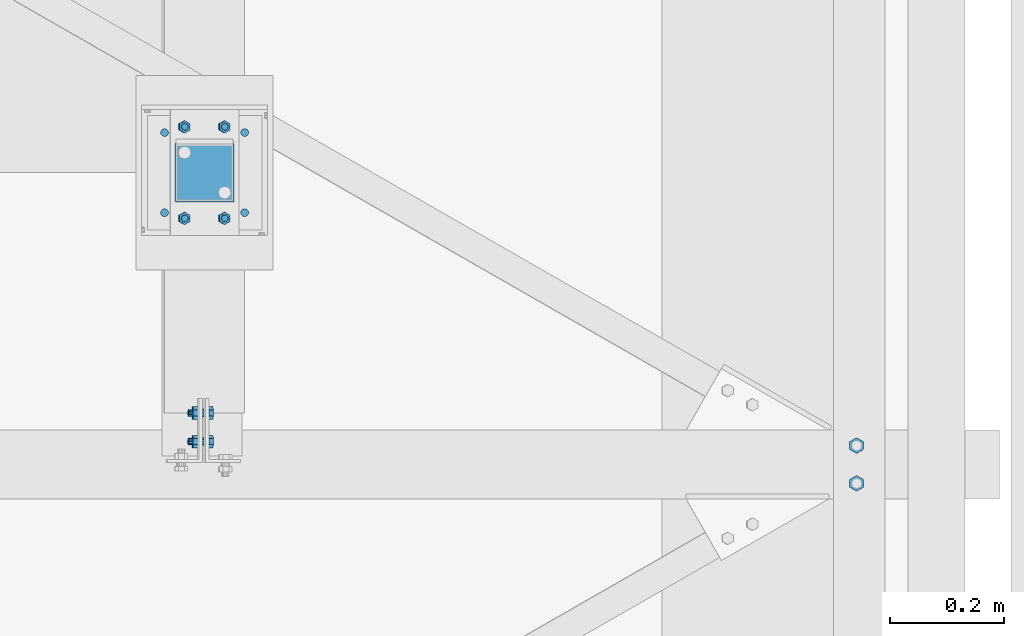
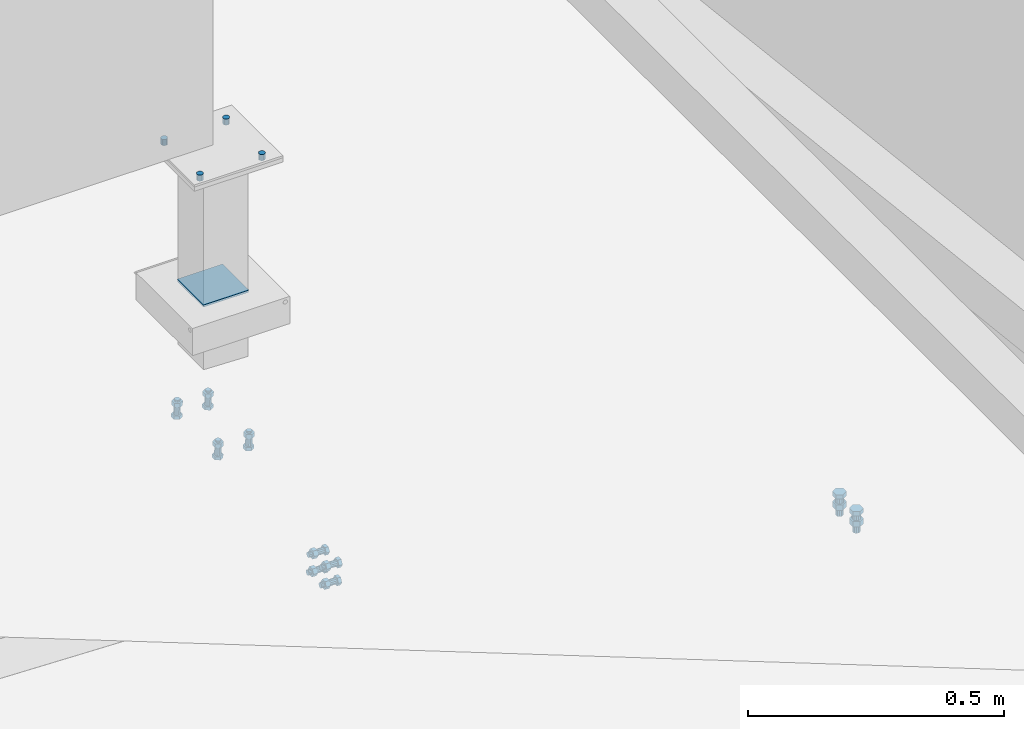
# One storey, part 393 of 3134: 5 mechanical fasteners, 4 elements without a shape of their own.
"""IFC2X3 building model written with IfcOpenShell, lengths in millimetres."""

from ifc_helpers import new_model, si_unit, frame, origin_with_axes, place, context, subcontext, project, spatial, faceted_brep, source, transform, mapped, material, type_object, element, aggregate, save


model = new_model("IFC2X3")

# Units and contexts
model_context = context("Model", 3, precision=1e-05, world=origin_with_axes())
body_context = subcontext(model_context, "Body", "Model", "MODEL_VIEW")
ifc_project = project(units=[si_unit("LENGTHUNIT", "METRE", prefix="MILLI"), si_unit("AREAUNIT", "SQUARE_METRE"), si_unit("VOLUMEUNIT", "CUBIC_METRE"), si_unit("MASSUNIT", "GRAM", prefix="KILO"), si_unit("TIMEUNIT", "SECOND"), si_unit("PLANEANGLEUNIT", "RADIAN"), si_unit("SOLIDANGLEUNIT", "STERADIAN"), si_unit("THERMODYNAMICTEMPERATUREUNIT", "DEGREE_CELSIUS"), si_unit("LUMINOUSINTENSITYUNIT", "LUMEN")], contexts=[model_context])

# Site, building, storey
site_placement = place(None, origin_with_axes())
site = spatial("IfcSite", under=ifc_project, at=site_placement, CompositionType="ELEMENT")
building_placement = place(site_placement, origin_with_axes())
building = spatial("IfcBuilding", under=site, at=building_placement, Name="Undefined", CompositionType="ELEMENT")
storey_placement = place(building_placement, origin_with_axes())
storey = spatial("IfcBuildingStorey", under=building, at=storey_placement, Name="Undefined", CompositionType="ELEMENT", Elevation=0.0)

# Assembly, mechanical fastener
assembly_1_placement = place(storey_placement, origin_with_axes())
assembly_1 = element("IfcElementAssembly", 1, at=assembly_1_placement, inside=storey, AssemblyPlace="NOTDEFINED", PredefinedType="RIGID_FRAME")
ifc_material_1 = material(Name="6.8")
mechanical_fastener_type = type_object("IfcMechanicalFastenerType", Name="Bolt assembly")
shared_shape_1 = source(origin_with_axes(), body_context, "Body", "Brep", [
    faceted_brep([(51.5, 1.36424205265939e-12, 50.0), (51.3858192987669, 1.36424205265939e-12, 50.5740251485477), (51.0606601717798, 1.36424205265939e-12, 51.0606601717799), (50.5740251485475, 1.36424205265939e-12, 51.385819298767), (-50.0000000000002, 1.36424205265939e-12, 51.5), (-50.7500000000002, 1.36424205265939e-12, 51.2990381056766), (-51.2990381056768, 1.36424205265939e-12, 50.7499999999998), (-51.5, 1.36424205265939e-12, 49.9999999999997), (-51.5, 1.36424205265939e-12, -50.0000000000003), (-51.2990381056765, 1.36424205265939e-12, -50.7500000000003), (-50.7499999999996, 1.36424205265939e-12, -51.2990381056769), (-49.9999999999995, 1.36424205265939e-12, -51.5), (50.0000000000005, 1.36424205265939e-12, -51.5), (50.7500000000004, 1.36424205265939e-12, -51.2990381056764), (51.2990381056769, 1.36424205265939e-12, -50.7499999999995), (51.5, 1.36424205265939e-12, -49.9999999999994), (51.5, 5.10000000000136, -49.9999999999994), (51.2990381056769, 5.10000000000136, -50.7499999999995), (50.7500000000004, 5.10000000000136, -51.2990381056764), (50.0000000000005, 5.10000000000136, -51.5), (-49.9999999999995, 5.10000000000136, -51.5), (-50.7499999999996, 5.10000000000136, -51.2990381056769), (-51.2990381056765, 5.10000000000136, -50.7500000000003), (-51.5, 5.10000000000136, -50.0000000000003), (-51.5, 5.10000000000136, 49.9999999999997), (-51.2990381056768, 5.10000000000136, 50.7499999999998), (-50.7500000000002, 5.10000000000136, 51.2990381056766), (-50.0000000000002, 5.10000000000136, 51.5), (50.5740251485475, 5.10000000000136, 51.385819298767), (51.0606601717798, 5.10000000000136, 51.0606601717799), (51.3858192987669, 5.10000000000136, 50.5740251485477), (51.5, 5.10000000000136, 50.0)], [[[0, 1, 2, 3, 4, 5, 6, 7, 8, 9, 10, 11, 12, 13, 14, 15]], [[16, 17, 18, 19, 20, 21, 22, 23, 24, 25, 26, 27, 28, 29, 30, 31]], [[0, 31, 30, 1]], [[1, 30, 29, 2]], [[2, 29, 28, 3]], [[3, 28, 27, 4]], [[4, 27, 26, 5]], [[5, 26, 25, 6]], [[6, 25, 24, 7]], [[7, 24, 23, 8]], [[8, 23, 22, 9]], [[9, 22, 21, 10]], [[10, 21, 20, 11]], [[11, 20, 19, 12]], [[12, 19, 18, 13]], [[13, 18, 17, 14]], [[14, 17, 16, 15]], [[15, 16, 31, 0]]]),
])
mechanical_fastener_1_placement = place(assembly_1_placement, frame((77945.0, 18227.0, 4146.62), z_axis=(0.0, -1.0, 0.0), x_axis=(-1.0, 0.0, 0.0)))
mechanical_fastener_1 = element("IfcMechanicalFastener", 2, at=mechanical_fastener_1_placement, type_object=mechanical_fastener_type, material=ifc_material_1, Name="Bolt assembly", NominalDiameter=10.0, NominalLength=5.0, context=body_context, shape_type="MappedRepresentation", body=[
    mapped(shared_shape_1, transform((0.0, 0.0, 0.0))),
])

assembly_2_placement = place(storey_placement, origin_with_axes())
assembly_2 = element("IfcElementAssembly", 3, at=assembly_2_placement, inside=storey, Name="UPN260", AssemblyPlace="NOTDEFINED", PredefinedType="RIGID_FRAME")
ifc_material_2 = material(Name="8.8")
shared_shape_2 = source(origin_with_axes(), body_context, "Body", "Brep", [
    faceted_brep([(13.856406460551, -10.0, 0.0), (6.92820323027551, -10.0, 12.0), (-6.92820323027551, -10.0, 12.0), (-13.856406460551, -10.0, 1.69692038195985e-15), (-6.92820323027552, -10.0, -12.0), (6.9282032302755, -10.0, -12.0), (6.9282032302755, 0.0, -12.0), (-6.92820323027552, 0.0, -12.0), (-13.856406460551, 0.0, 1.69692038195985e-15), (-6.92820323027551, 0.0, 12.0), (6.92820323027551, 0.0, 12.0), (13.856406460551, 0.0, 0.0), (8.0, 0.0, 0.0), (6.92820323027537, 0.0, 4.00000000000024), (3.99999999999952, 0.0, 6.92820323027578), (-8.29068785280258e-13, 0.0, 8.0), (-4.00000000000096, 0.0, 6.92820323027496), (-6.9282032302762, 0.0, 3.99999999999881), (-8.0, 0.0, -1.65813757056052e-12), (-6.92820323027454, 0.0, -4.00000000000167), (-3.99999999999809, 0.0, -6.92820323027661), (2.47832457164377e-12, 0.0, -8.0), (4.00000000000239, 0.0, -6.92820323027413), (6.92820323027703, 0.0, -3.99999999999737), (6.92820323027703, 45.0, -3.99999999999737), (4.00000000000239, 45.0, -6.92820323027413), (2.47832457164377e-12, 45.0, -8.0), (-3.99999999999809, 45.0, -6.92820323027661), (-6.92820323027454, 45.0, -4.00000000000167), (-8.0, 45.0, -1.65813757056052e-12), (-6.9282032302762, 45.0, 3.99999999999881), (-4.00000000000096, 45.0, 6.92820323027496), (-8.29068785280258e-13, 45.0, 8.0), (3.99999999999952, 45.0, 6.92820323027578), (6.92820323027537, 45.0, 4.00000000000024), (8.0, 45.0, 0.0), (13.856406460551, 13.9999999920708, 0.0), (6.92820323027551, 13.9999999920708, 12.0), (-6.92820323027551, 13.9999999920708, 12.0), (-13.856406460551, 13.9999999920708, 1.69692038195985e-15), (-6.92820323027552, 13.9999999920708, -12.0), (6.9282032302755, 13.9999999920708, -12.0), (6.9282032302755, 27.0, -12.0), (-6.92820323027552, 27.0, -12.0), (-13.856406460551, 27.0, 1.69692038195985e-15), (-6.92820323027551, 27.0, 12.0), (6.92820323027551, 27.0, 12.0), (13.856406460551, 27.0, 0.0)], [[[0, 1, 2, 3, 4, 5]], [[6, 7, 8, 9, 10, 11]], [[0, 11, 10, 1]], [[1, 10, 9, 2]], [[2, 9, 8, 3]], [[3, 8, 7, 4]], [[4, 7, 6, 5]], [[5, 6, 11, 0]], [[12, 13, 14, 15, 16, 17, 18, 19, 20, 21, 22, 23]], [[24, 25, 26, 27, 28, 29, 30, 31, 32, 33, 34, 35]], [[12, 35, 34, 13]], [[13, 34, 33, 14]], [[14, 33, 32, 15]], [[15, 32, 31, 16]], [[16, 31, 30, 17]], [[17, 30, 29, 18]], [[18, 29, 28, 19]], [[19, 28, 27, 20]], [[20, 27, 26, 21]], [[21, 26, 25, 22]], [[22, 25, 24, 23]], [[23, 24, 35, 12]], [[36, 37, 38, 39, 40, 41]], [[42, 43, 44, 45, 46, 47]], [[36, 47, 46, 37]], [[37, 46, 45, 38]], [[38, 45, 44, 39]], [[39, 44, 43, 40]], [[40, 43, 42, 41]], [[41, 42, 47, 36]]]),
    faceted_brep([(9.0, -3.46568413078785e-07, 0.0), (7.79422863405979, -3.46568413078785e-07, 4.50000000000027), (4.49999999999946, -3.46568413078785e-07, 7.79422863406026), (-9.3270238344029e-13, -3.46568413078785e-07, 9.0), (-4.50000000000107, -3.46568413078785e-07, 7.79422863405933), (-7.79422863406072, -3.46568413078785e-07, 4.49999999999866), (-9.0, -3.46568413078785e-07, -1.86540476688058e-12), (-7.79422863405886, -3.46568413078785e-07, -4.50000000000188), (-4.49999999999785, -3.46568413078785e-07, -7.79422863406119), (2.78811514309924e-12, -3.46568413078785e-07, -9.0), (4.50000000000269, -3.46568413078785e-07, -7.7942286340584), (7.79422863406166, -3.46568413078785e-07, -4.49999999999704), (7.79422863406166, 14.1000000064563, -4.49999999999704), (4.50000000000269, 14.1000000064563, -7.7942286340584), (2.78811514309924e-12, 14.1000000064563, -9.0), (-4.49999999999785, 14.1000000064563, -7.79422863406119), (-7.79422863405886, 14.1000000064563, -4.50000000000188), (-9.0, 14.1000000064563, -1.86540476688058e-12), (-7.79422863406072, 14.1000000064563, 4.49999999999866), (-4.50000000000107, 14.1000000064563, 7.79422863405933), (-9.3270238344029e-13, 14.1000000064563, 9.0), (4.49999999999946, 14.1000000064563, 7.79422863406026), (7.79422863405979, 14.1000000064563, 4.50000000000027), (9.0, 14.1000000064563, 0.0)], [[[0, 1, 2, 3, 4, 5, 6, 7, 8, 9, 10, 11]], [[12, 13, 14, 15, 16, 17, 18, 19, 20, 21, 22, 23]], [[0, 23, 22, 1]], [[1, 22, 21, 2]], [[2, 21, 20, 3]], [[3, 20, 19, 4]], [[4, 19, 18, 5]], [[5, 18, 17, 6]], [[6, 17, 16, 7]], [[7, 16, 15, 8]], [[8, 15, 14, 9]], [[9, 14, 13, 10]], [[10, 13, 12, 11]], [[11, 12, 23, 0]]]),
])
mechanical_fastener_2_placement = place(assembly_2_placement, frame((79085.0000000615, 17683.663333, 3532.96480904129), z_axis=(-0.99999999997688, 0.0, -6.80000067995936e-06), x_axis=(0.0, 1.0, 0.0)))
mechanical_fastener_2 = element("IfcMechanicalFastener", 4, at=mechanical_fastener_2_placement, type_object=mechanical_fastener_type, material=ifc_material_2, Name="Bolt assembly", NominalDiameter=16.0, NominalLength=45.0, context=body_context, shape_type="MappedRepresentation", body=[
    mapped(shared_shape_2, transform((0.0, 0.0, 0.0))),
    mapped(shared_shape_2, transform((66.0, 0.0, 0.0))),
])
aggregate(assembly_2, [mechanical_fastener_2])

assembly_3_placement = place(storey_placement, origin_with_axes())
assembly_3 = element("IfcElementAssembly", 5, at=assembly_3_placement, inside=storey, AssemblyPlace="NOTDEFINED", PredefinedType="RIGID_FRAME")
shared_shape_3 = source(origin_with_axes(), body_context, "Body", "Brep", [
    faceted_brep([(10.9696551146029, -14.250187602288, 0.0), (5.48482755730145, -14.250187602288, 9.5), (-5.48482755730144, -14.250187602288, 9.5), (-10.9696551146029, -14.250187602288, 1.34339530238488e-15), (-5.48482755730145, -14.250187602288, -9.5), (5.48482755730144, -14.250187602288, -9.50000000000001), (5.48482755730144, -6.25018760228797, -9.50000000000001), (-5.48482755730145, -6.25018760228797, -9.5), (-10.9696551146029, -6.25018760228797, 1.34339530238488e-15), (-5.48482755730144, -6.25018760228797, 9.5), (5.48482755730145, -6.25018760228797, 9.5), (10.9696551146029, -6.25018760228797, 0.0), (6.0, -6.25018760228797, 0.0), (5.19615242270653, -6.25018760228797, 3.00000000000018), (2.99999999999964, -6.25018760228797, 5.19615242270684), (-6.21801588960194e-13, -6.25018760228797, 6.0), (-3.00000000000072, -6.25018760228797, 5.19615242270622), (-5.19615242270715, -6.25018760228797, 2.9999999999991), (-6.0, -6.25018760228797, -1.24360317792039e-12), (-5.19615242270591, -6.25018760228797, -3.00000000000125), (-2.99999999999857, -6.25018760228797, -5.19615242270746), (1.85874342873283e-12, -6.25018760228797, -6.0), (3.00000000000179, -6.25018760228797, -5.1961524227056), (5.19615242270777, -6.25018760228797, -2.99999999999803), (5.19615242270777, 28.749812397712, -2.99999999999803), (3.00000000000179, 28.749812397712, -5.1961524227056), (1.85874342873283e-12, 28.749812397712, -6.0), (-2.99999999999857, 28.749812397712, -5.19615242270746), (-5.19615242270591, 28.749812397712, -3.00000000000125), (-6.0, 28.749812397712, -1.24360317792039e-12), (-5.19615242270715, 28.749812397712, 2.9999999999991), (-3.00000000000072, 28.749812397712, 5.19615242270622), (-6.21801588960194e-13, 28.749812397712, 6.0), (2.99999999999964, 28.749812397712, 5.19615242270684), (5.19615242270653, 28.749812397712, 3.00000000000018), (6.0, 28.749812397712, 0.0), (10.9696551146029, 11.2575524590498, 0.0), (5.48482755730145, 11.2575524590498, 9.5), (-5.48482755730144, 11.2575524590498, 9.5), (-10.9696551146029, 11.2575524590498, 1.34339530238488e-15), (-5.48482755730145, 11.2575524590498, -9.5), (5.48482755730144, 11.2575524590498, -9.50000000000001), (5.48482755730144, 21.2575524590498, -9.50000000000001), (-5.48482755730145, 21.2575524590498, -9.5), (-10.9696551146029, 21.2575524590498, 1.34339530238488e-15), (-5.48482755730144, 21.2575524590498, 9.5), (5.48482755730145, 21.2575524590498, 9.5), (10.9696551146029, 21.2575524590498, 0.0)], [[[0, 1, 2, 3, 4, 5]], [[6, 7, 8, 9, 10, 11]], [[0, 11, 10, 1]], [[1, 10, 9, 2]], [[2, 9, 8, 3]], [[3, 8, 7, 4]], [[4, 7, 6, 5]], [[5, 6, 11, 0]], [[12, 13, 14, 15, 16, 17, 18, 19, 20, 21, 22, 23]], [[24, 25, 26, 27, 28, 29, 30, 31, 32, 33, 34, 35]], [[12, 35, 34, 13]], [[13, 34, 33, 14]], [[14, 33, 32, 15]], [[15, 32, 31, 16]], [[16, 31, 30, 17]], [[17, 30, 29, 18]], [[18, 29, 28, 19]], [[19, 28, 27, 20]], [[20, 27, 26, 21]], [[21, 26, 25, 22]], [[22, 25, 24, 23]], [[23, 24, 35, 12]], [[36, 37, 38, 39, 40, 41]], [[42, 43, 44, 45, 46, 47]], [[36, 47, 46, 37]], [[37, 46, 45, 38]], [[38, 45, 44, 39]], [[39, 44, 43, 40]], [[40, 43, 42, 41]], [[41, 42, 47, 36]]]),
    faceted_brep([(7.0, 5.15755245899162, 0.0), (6.06217782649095, 5.15755245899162, 3.50000000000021), (3.49999999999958, 5.15755245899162, 6.06217782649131), (-7.25435187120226e-13, 5.15755245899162, 7.0), (-3.50000000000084, 5.15755245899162, 6.06217782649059), (-6.06217782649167, 5.15755245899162, 3.49999999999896), (-7.0, 5.15755245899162, -1.45087037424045e-12), (-6.06217782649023, 5.15755245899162, -3.50000000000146), (-3.49999999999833, 5.15755245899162, -6.06217782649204), (2.1685340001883e-12, 5.15755245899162, -7.0), (3.50000000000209, 5.15755245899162, -6.06217782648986), (6.0621778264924, 5.15755245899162, -3.4999999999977), (6.0621778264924, 11.2575524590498, -3.4999999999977), (3.50000000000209, 11.2575524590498, -6.06217782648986), (2.1685340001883e-12, 11.2575524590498, -7.0), (-3.49999999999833, 11.2575524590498, -6.06217782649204), (-6.06217782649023, 11.2575524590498, -3.50000000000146), (-7.0, 11.2575524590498, -1.45087037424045e-12), (-6.06217782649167, 11.2575524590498, 3.49999999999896), (-3.50000000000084, 11.2575524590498, 6.06217782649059), (-7.25435187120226e-13, 11.2575524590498, 7.0), (3.49999999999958, 11.2575524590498, 6.06217782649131), (6.06217782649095, 11.2575524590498, 3.50000000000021), (7.0, 11.2575524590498, 0.0), (7.0, -6.15018760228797, 0.0), (6.06217782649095, -6.15018760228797, 3.50000000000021), (3.49999999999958, -6.15018760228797, 6.06217782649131), (-7.25435187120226e-13, -6.15018760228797, 7.0), (-3.50000000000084, -6.15018760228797, 6.06217782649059), (-6.06217782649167, -6.15018760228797, 3.49999999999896), (-7.0, -6.15018760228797, -1.45087037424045e-12), (-6.06217782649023, -6.15018760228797, -3.50000000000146), (-3.49999999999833, -6.15018760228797, -6.06217782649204), (2.1685340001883e-12, -6.15018760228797, -7.0), (3.50000000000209, -6.15018760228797, -6.06217782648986), (6.0621778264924, -6.15018760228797, -3.4999999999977), (6.0621778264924, -0.150187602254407, -3.4999999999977), (3.50000000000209, -0.150187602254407, -6.06217782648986), (2.1685340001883e-12, -0.150187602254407, -7.0), (-3.49999999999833, -0.150187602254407, -6.06217782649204), (-6.06217782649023, -0.150187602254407, -3.50000000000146), (-7.0, -0.150187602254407, -1.45087037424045e-12), (-6.06217782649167, -0.150187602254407, 3.49999999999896), (-3.50000000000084, -0.150187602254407, 6.06217782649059), (-7.25435187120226e-13, -0.150187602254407, 7.0), (3.49999999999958, -0.150187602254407, 6.06217782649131), (6.06217782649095, -0.150187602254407, 3.50000000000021), (7.0, -0.150187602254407, 0.0), (7.0, -0.249172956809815, 0.0), (6.06217782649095, -0.249172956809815, 3.50000000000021), (3.49999999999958, -0.249172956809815, 6.06217782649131), (-7.25435187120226e-13, -0.249172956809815, 7.0), (-3.50000000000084, -0.249172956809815, 6.06217782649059), (-6.06217782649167, -0.249172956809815, 3.49999999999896), (-7.0, -0.249172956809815, -1.45087037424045e-12), (-6.06217782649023, -0.249172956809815, -3.50000000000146), (-3.49999999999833, -0.249172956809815, -6.06217782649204), (2.1685340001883e-12, -0.249172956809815, -7.0), (3.50000000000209, -0.249172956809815, -6.06217782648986), (6.0621778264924, -0.249172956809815, -3.4999999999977), (6.0621778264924, 5.25082704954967, -3.4999999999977), (3.50000000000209, 5.25082704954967, -6.06217782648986), (2.1685340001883e-12, 5.25082704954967, -7.0), (-3.49999999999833, 5.25082704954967, -6.06217782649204), (-6.06217782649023, 5.25082704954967, -3.50000000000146), (-7.0, 5.25082704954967, -1.45087037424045e-12), (-6.06217782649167, 5.25082704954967, 3.49999999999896), (-3.50000000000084, 5.25082704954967, 6.06217782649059), (-7.25435187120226e-13, 5.25082704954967, 7.0), (3.49999999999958, 5.25082704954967, 6.06217782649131), (6.06217782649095, 5.25082704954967, 3.50000000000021), (7.0, 5.25082704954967, 0.0)], [[[0, 1, 2, 3, 4, 5, 6, 7, 8, 9, 10, 11]], [[12, 13, 14, 15, 16, 17, 18, 19, 20, 21, 22, 23]], [[0, 23, 22, 1]], [[1, 22, 21, 2]], [[2, 21, 20, 3]], [[3, 20, 19, 4]], [[4, 19, 18, 5]], [[5, 18, 17, 6]], [[6, 17, 16, 7]], [[7, 16, 15, 8]], [[8, 15, 14, 9]], [[9, 14, 13, 10]], [[10, 13, 12, 11]], [[11, 12, 23, 0]], [[24, 25, 26, 27, 28, 29, 30, 31, 32, 33, 34, 35]], [[36, 37, 38, 39, 40, 41, 42, 43, 44, 45, 46, 47]], [[24, 47, 46, 25]], [[25, 46, 45, 26]], [[26, 45, 44, 27]], [[27, 44, 43, 28]], [[28, 43, 42, 29]], [[29, 42, 41, 30]], [[30, 41, 40, 31]], [[31, 40, 39, 32]], [[32, 39, 38, 33]], [[33, 38, 37, 34]], [[34, 37, 36, 35]], [[35, 36, 47, 24]], [[48, 49, 50, 51, 52, 53, 54, 55, 56, 57, 58, 59]], [[60, 61, 62, 63, 64, 65, 66, 67, 68, 69, 70, 71]], [[48, 71, 70, 49]], [[49, 70, 69, 50]], [[50, 69, 68, 51]], [[51, 68, 67, 52]], [[52, 67, 66, 53]], [[53, 66, 65, 54]], [[54, 65, 64, 55]], [[55, 64, 63, 56]], [[56, 63, 62, 57]], [[57, 62, 61, 58]], [[58, 61, 60, 59]], [[59, 60, 71, 48]]]),
])
mechanical_fastener_3_placement = place(assembly_3_placement, frame((77945.0588759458, 17756.68, 3743.49470157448), z_axis=(0.0309396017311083, 0.0, 0.999521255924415), x_axis=(0.0, 1.0, 0.0)))
mechanical_fastener_3 = element("IfcMechanicalFastener", 6, at=mechanical_fastener_3_placement, type_object=mechanical_fastener_type, material=ifc_material_2, Name="Bolt assembly", NominalDiameter=12.0, NominalLength=35.0, context=body_context, shape_type="MappedRepresentation", body=[
    mapped(shared_shape_3, transform((0.0, 0.0, -21.0))),
    mapped(shared_shape_3, transform((50.0, -1.01863406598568e-10, -20.9999999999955))),
    mapped(shared_shape_3, transform((0.0, 0.0, 21.0))),
    mapped(shared_shape_3, transform((50.0, 1.30967237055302e-10, 20.9999999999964))),
])
aggregate(assembly_3, [mechanical_fastener_3])

# Mechanical fastener
shared_shape_4 = source(origin_with_axes(), body_context, "Body", "Brep", [
    faceted_brep([(7.0, -4.90000000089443, 0.0), (6.06217782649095, -4.90000000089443, 3.50000000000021), (3.49999999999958, -4.90000000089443, 6.06217782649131), (-7.25435187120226e-13, -4.90000000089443, 7.0), (-3.50000000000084, -4.90000000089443, 6.06217782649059), (-6.06217782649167, -4.90000000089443, 3.49999999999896), (-7.0, -4.90000000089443, -1.45087037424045e-12), (-6.06217782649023, -4.90000000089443, -3.50000000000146), (-3.49999999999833, -4.90000000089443, -6.06217782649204), (2.1685340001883e-12, -4.90000000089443, -7.0), (3.50000000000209, -4.90000000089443, -6.06217782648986), (6.0621778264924, -4.90000000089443, -3.4999999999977), (6.0621778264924, 0.0999999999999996, -3.4999999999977), (3.50000000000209, 0.0999999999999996, -6.06217782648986), (2.1685340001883e-12, 0.0999999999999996, -7.0), (-3.49999999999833, 0.0999999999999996, -6.06217782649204), (-6.06217782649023, 0.0999999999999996, -3.50000000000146), (-7.0, 0.0999999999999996, -1.45087037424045e-12), (-6.06217782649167, 0.0999999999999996, 3.49999999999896), (-3.50000000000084, 0.0999999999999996, 6.06217782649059), (-7.25435187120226e-13, 0.0999999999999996, 7.0), (3.49999999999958, 0.0999999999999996, 6.06217782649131), (6.06217782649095, 0.0999999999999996, 3.50000000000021), (7.0, 0.0999999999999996, 0.0), (7.0, -0.1, 0.0), (6.06217782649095, -0.1, 3.50000000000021), (3.49999999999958, -0.1, 6.06217782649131), (-7.25435187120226e-13, -0.1, 7.0), (-3.50000000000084, -0.1, 6.06217782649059), (-6.06217782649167, -0.1, 3.49999999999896), (-7.0, -0.1, -1.45087037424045e-12), (-6.06217782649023, -0.1, -3.50000000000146), (-3.49999999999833, -0.1, -6.06217782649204), (2.1685340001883e-12, -0.1, -7.0), (3.50000000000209, -0.1, -6.06217782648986), (6.0621778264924, -0.1, -3.4999999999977), (6.0621778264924, 10.0, -3.4999999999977), (3.50000000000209, 10.0, -6.06217782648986), (2.1685340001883e-12, 10.0, -7.0), (-3.49999999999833, 10.0, -6.06217782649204), (-6.06217782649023, 10.0, -3.50000000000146), (-7.0, 10.0, -1.45087037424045e-12), (-6.06217782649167, 10.0, 3.49999999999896), (-3.50000000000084, 10.0, 6.06217782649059), (-7.25435187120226e-13, 10.0, 7.0), (3.49999999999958, 10.0, 6.06217782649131), (6.06217782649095, 10.0, 3.50000000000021), (7.0, 10.0, 0.0)], [[[0, 1, 2, 3, 4, 5, 6, 7, 8, 9, 10, 11]], [[12, 13, 14, 15, 16, 17, 18, 19, 20, 21, 22, 23]], [[0, 23, 22, 1]], [[1, 22, 21, 2]], [[2, 21, 20, 3]], [[3, 20, 19, 4]], [[4, 19, 18, 5]], [[5, 18, 17, 6]], [[6, 17, 16, 7]], [[7, 16, 15, 8]], [[8, 15, 14, 9]], [[9, 14, 13, 10]], [[10, 13, 12, 11]], [[11, 12, 23, 0]], [[24, 25, 26, 27, 28, 29, 30, 31, 32, 33, 34, 35]], [[36, 37, 38, 39, 40, 41, 42, 43, 44, 45, 46, 47]], [[24, 47, 46, 25]], [[25, 46, 45, 26]], [[26, 45, 44, 27]], [[27, 44, 43, 28]], [[28, 43, 42, 29]], [[29, 42, 41, 30]], [[30, 41, 40, 31]], [[31, 40, 39, 32]], [[32, 39, 38, 33]], [[33, 38, 37, 34]], [[34, 37, 36, 35]], [[35, 36, 47, 24]]]),
])
mechanical_fastener_4_placement = place(assembly_1_placement, frame((77945.0, 18157.0, 4475.0), z_axis=(-1.0, 0.0, 0.0), x_axis=(0.0, 1.0, 0.0)))
mechanical_fastener_4 = element("IfcMechanicalFastener", 7, at=mechanical_fastener_4_placement, type_object=mechanical_fastener_type, material=ifc_material_2, Name="Bolt assembly", NominalDiameter=12.0, NominalLength=15.0, context=body_context, shape_type="MappedRepresentation", body=[
    mapped(shared_shape_4, transform((0.0, 0.0, -70.0))),
    mapped(shared_shape_4, transform((140.0, 0.0, -70.0))),
    mapped(shared_shape_4, transform((0.0, 0.0, 70.0))),
    mapped(shared_shape_4, transform((140.0, 0.0, 70.0))),
])

aggregate(assembly_1, [mechanical_fastener_1, mechanical_fastener_4])

# Assembly, mechanical fastener
assembly_4_placement = place(storey_placement, origin_with_axes())
assembly_4 = element("IfcElementAssembly", 8, at=assembly_4_placement, inside=storey, AssemblyPlace="NOTDEFINED", PredefinedType="RIGID_FRAME")
shared_shape_5 = source(origin_with_axes(), body_context, "Body", "Brep", [
    faceted_brep([(10.9696551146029, -28.5008088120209, 0.0), (5.48482755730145, -28.5008088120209, 9.5), (-5.48482755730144, -28.5008088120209, 9.5), (-10.9696551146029, -28.5008088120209, 1.34339530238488e-15), (-5.48482755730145, -28.5008088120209, -9.5), (5.48482755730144, -28.5008088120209, -9.50000000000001), (5.48482755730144, -20.5008088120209, -9.50000000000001), (-5.48482755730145, -20.5008088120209, -9.5), (-10.9696551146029, -20.5008088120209, 1.34339530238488e-15), (-5.48482755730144, -20.5008088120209, 9.5), (5.48482755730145, -20.5008088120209, 9.5), (10.9696551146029, -20.5008088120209, 0.0), (6.0, -20.5008088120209, 0.0), (5.19615242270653, -20.5008088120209, 3.00000000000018), (2.99999999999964, -20.5008088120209, 5.19615242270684), (-6.21801588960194e-13, -20.5008088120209, 6.0), (-3.00000000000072, -20.5008088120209, 5.19615242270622), (-5.19615242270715, -20.5008088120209, 2.9999999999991), (-6.0, -20.5008088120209, -1.24360317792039e-12), (-5.19615242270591, -20.5008088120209, -3.00000000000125), (-2.99999999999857, -20.5008088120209, -5.19615242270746), (1.85874342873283e-12, -20.5008088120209, -6.0), (3.00000000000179, -20.5008088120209, -5.1961524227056), (5.19615242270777, -20.5008088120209, -2.99999999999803), (5.19615242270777, 14.4991911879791, -2.99999999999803), (3.00000000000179, 14.4991911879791, -5.1961524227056), (1.85874342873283e-12, 14.4991911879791, -6.0), (-2.99999999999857, 14.4991911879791, -5.19615242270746), (-5.19615242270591, 14.4991911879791, -3.00000000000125), (-6.0, 14.4991911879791, -1.24360317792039e-12), (-5.19615242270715, 14.4991911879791, 2.9999999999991), (-3.00000000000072, 14.4991911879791, 5.19615242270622), (-6.21801588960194e-13, 14.4991911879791, 6.0), (2.99999999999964, 14.4991911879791, 5.19615242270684), (5.19615242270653, 14.4991911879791, 3.00000000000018), (6.0, 14.4991911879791, 0.0), (10.9696551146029, -0.000200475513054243, 0.0), (5.48482755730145, -0.000200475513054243, 9.5), (-5.48482755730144, -0.000200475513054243, 9.5), (-10.9696551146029, -0.000200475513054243, 1.34339530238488e-15), (-5.48482755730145, -0.000200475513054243, -9.5), (5.48482755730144, -0.000200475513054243, -9.50000000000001), (5.48482755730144, 9.99979952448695, -9.50000000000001), (-5.48482755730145, 9.99979952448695, -9.5), (-10.9696551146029, 9.99979952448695, 1.34339530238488e-15), (-5.48482755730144, 9.99979952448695, 9.5), (5.48482755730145, 9.99979952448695, 9.5), (10.9696551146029, 9.99979952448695, 0.0)], [[[0, 1, 2, 3, 4, 5]], [[6, 7, 8, 9, 10, 11]], [[0, 11, 10, 1]], [[1, 10, 9, 2]], [[2, 9, 8, 3]], [[3, 8, 7, 4]], [[4, 7, 6, 5]], [[5, 6, 11, 0]], [[12, 13, 14, 15, 16, 17, 18, 19, 20, 21, 22, 23]], [[24, 25, 26, 27, 28, 29, 30, 31, 32, 33, 34, 35]], [[12, 35, 34, 13]], [[13, 34, 33, 14]], [[14, 33, 32, 15]], [[15, 32, 31, 16]], [[16, 31, 30, 17]], [[17, 30, 29, 18]], [[18, 29, 28, 19]], [[19, 28, 27, 20]], [[20, 27, 26, 21]], [[21, 26, 25, 22]], [[22, 25, 24, 23]], [[23, 24, 35, 12]], [[36, 37, 38, 39, 40, 41]], [[42, 43, 44, 45, 46, 47]], [[36, 47, 46, 37]], [[37, 46, 45, 38]], [[38, 45, 44, 39]], [[39, 44, 43, 40]], [[40, 43, 42, 41]], [[41, 42, 47, 36]]]),
    faceted_brep([(7.0, -10.100200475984, 0.0), (6.06217782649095, -10.100200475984, 3.50000000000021), (3.49999999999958, -10.100200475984, 6.06217782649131), (-7.25435187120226e-13, -10.100200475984, 7.0), (-3.50000000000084, -10.100200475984, 6.06217782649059), (-6.06217782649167, -10.100200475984, 3.49999999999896), (-7.0, -10.100200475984, -1.45087037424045e-12), (-6.06217782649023, -10.100200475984, -3.50000000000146), (-3.49999999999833, -10.100200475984, -6.06217782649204), (2.1685340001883e-12, -10.100200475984, -7.0), (3.50000000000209, -10.100200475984, -6.06217782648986), (6.0621778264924, -10.100200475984, -3.4999999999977), (6.0621778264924, -0.000200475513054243, -3.4999999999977), (3.50000000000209, -0.000200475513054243, -6.06217782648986), (2.1685340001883e-12, -0.000200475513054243, -7.0), (-3.49999999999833, -0.000200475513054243, -6.06217782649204), (-6.06217782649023, -0.000200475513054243, -3.50000000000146), (-7.0, -0.000200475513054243, -1.45087037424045e-12), (-6.06217782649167, -0.000200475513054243, 3.49999999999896), (-3.50000000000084, -0.000200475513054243, 6.06217782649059), (-7.25435187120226e-13, -0.000200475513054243, 7.0), (3.49999999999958, -0.000200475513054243, 6.06217782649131), (6.06217782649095, -0.000200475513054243, 3.50000000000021), (7.0, -0.000200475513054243, 0.0), (7.0, -12.0002021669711, 0.0), (6.06217782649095, -12.0002021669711, 3.50000000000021), (3.49999999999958, -12.0002021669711, 6.06217782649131), (-7.25435187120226e-13, -12.0002021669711, 7.0), (-3.50000000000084, -12.0002021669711, 6.06217782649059), (-6.06217782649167, -12.0002021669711, 3.49999999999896), (-7.0, -12.0002021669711, -1.45087037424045e-12), (-6.06217782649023, -12.0002021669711, -3.50000000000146), (-3.49999999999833, -12.0002021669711, -6.06217782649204), (2.1685340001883e-12, -12.0002021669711, -7.0), (3.50000000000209, -12.0002021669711, -6.06217782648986), (6.0621778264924, -12.0002021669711, -3.4999999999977), (6.0621778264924, -10.0002021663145, -3.4999999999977), (3.50000000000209, -10.0002021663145, -6.06217782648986), (2.1685340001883e-12, -10.0002021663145, -7.0), (-3.49999999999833, -10.0002021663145, -6.06217782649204), (-6.06217782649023, -10.0002021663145, -3.50000000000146), (-7.0, -10.0002021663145, -1.45087037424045e-12), (-6.06217782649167, -10.0002021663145, 3.49999999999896), (-3.50000000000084, -10.0002021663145, 6.06217782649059), (-7.25435187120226e-13, -10.0002021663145, 7.0), (3.49999999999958, -10.0002021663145, 6.06217782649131), (6.06217782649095, -10.0002021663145, 3.50000000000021), (7.0, -10.0002021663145, 0.0), (7.0, -20.4008088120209, 0.0), (6.06217782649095, -20.4008088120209, 3.50000000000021), (3.49999999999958, -20.4008088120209, 6.06217782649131), (-7.25435187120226e-13, -20.4008088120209, 7.0), (-3.50000000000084, -20.4008088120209, 6.06217782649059), (-6.06217782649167, -20.4008088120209, 3.49999999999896), (-7.0, -20.4008088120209, -1.45087037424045e-12), (-6.06217782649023, -20.4008088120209, -3.50000000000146), (-3.49999999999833, -20.4008088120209, -6.06217782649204), (2.1685340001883e-12, -20.4008088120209, -7.0), (3.50000000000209, -20.4008088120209, -6.06217782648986), (6.0621778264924, -20.4008088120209, -3.4999999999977), (6.0621778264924, -11.9009000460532, -3.4999999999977), (3.50000000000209, -11.9009000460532, -6.06217782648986), (2.1685340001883e-12, -11.9009000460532, -7.0), (-3.49999999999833, -11.9009000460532, -6.06217782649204), (-6.06217782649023, -11.9009000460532, -3.50000000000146), (-7.0, -11.9009000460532, -1.45087037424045e-12), (-6.06217782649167, -11.9009000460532, 3.49999999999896), (-3.50000000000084, -11.9009000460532, 6.06217782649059), (-7.25435187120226e-13, -11.9009000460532, 7.0), (3.49999999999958, -11.9009000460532, 6.06217782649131), (6.06217782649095, -11.9009000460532, 3.50000000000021), (7.0, -11.9009000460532, 0.0)], [[[0, 1, 2, 3, 4, 5, 6, 7, 8, 9, 10, 11]], [[12, 13, 14, 15, 16, 17, 18, 19, 20, 21, 22, 23]], [[0, 23, 22, 1]], [[1, 22, 21, 2]], [[2, 21, 20, 3]], [[3, 20, 19, 4]], [[4, 19, 18, 5]], [[5, 18, 17, 6]], [[6, 17, 16, 7]], [[7, 16, 15, 8]], [[8, 15, 14, 9]], [[9, 14, 13, 10]], [[10, 13, 12, 11]], [[11, 12, 23, 0]], [[24, 25, 26, 27, 28, 29, 30, 31, 32, 33, 34, 35]], [[36, 37, 38, 39, 40, 41, 42, 43, 44, 45, 46, 47]], [[24, 47, 46, 25]], [[25, 46, 45, 26]], [[26, 45, 44, 27]], [[27, 44, 43, 28]], [[28, 43, 42, 29]], [[29, 42, 41, 30]], [[30, 41, 40, 31]], [[31, 40, 39, 32]], [[32, 39, 38, 33]], [[33, 38, 37, 34]], [[34, 37, 36, 35]], [[35, 36, 47, 24]], [[48, 49, 50, 51, 52, 53, 54, 55, 56, 57, 58, 59]], [[60, 61, 62, 63, 64, 65, 66, 67, 68, 69, 70, 71]], [[48, 71, 70, 49]], [[49, 70, 69, 50]], [[50, 69, 68, 51]], [[51, 68, 67, 52]], [[52, 67, 66, 53]], [[53, 66, 65, 54]], [[54, 65, 64, 55]], [[55, 64, 63, 56]], [[56, 63, 62, 57]], [[57, 62, 61, 58]], [[58, 61, 60, 59]], [[59, 60, 71, 48]]]),
])
mechanical_fastener_5_placement = place(assembly_4_placement, frame((77945.0023230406, 18147.0012018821, 3821.98568377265), z_axis=(0.999519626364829, 0.0, -0.030992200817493), x_axis=(0.0, 0.9999999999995, 1.00000008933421e-06)))
mechanical_fastener_5 = element("IfcMechanicalFastener", 9, at=mechanical_fastener_5_placement, type_object=mechanical_fastener_type, material=ifc_material_2, Name="Bolt assembly", NominalDiameter=12.0, NominalLength=35.0, context=body_context, shape_type="MappedRepresentation", body=[
    mapped(shared_shape_5, transform((0.0, 0.0, -35.0))),
    mapped(shared_shape_5, transform((160.000000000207, -4.82032191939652e-10, -35.0))),
    mapped(shared_shape_5, transform((0.0, 0.0, 35.0))),
    mapped(shared_shape_5, transform((160.000000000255, 2.79214873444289e-10, 35.0000000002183))),
])
aggregate(assembly_4, [mechanical_fastener_5])

save(model, "model.ifc")
